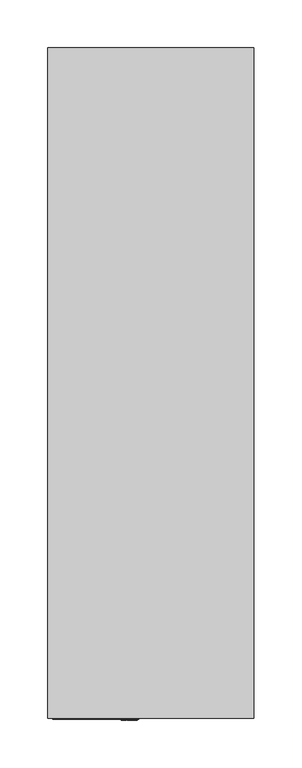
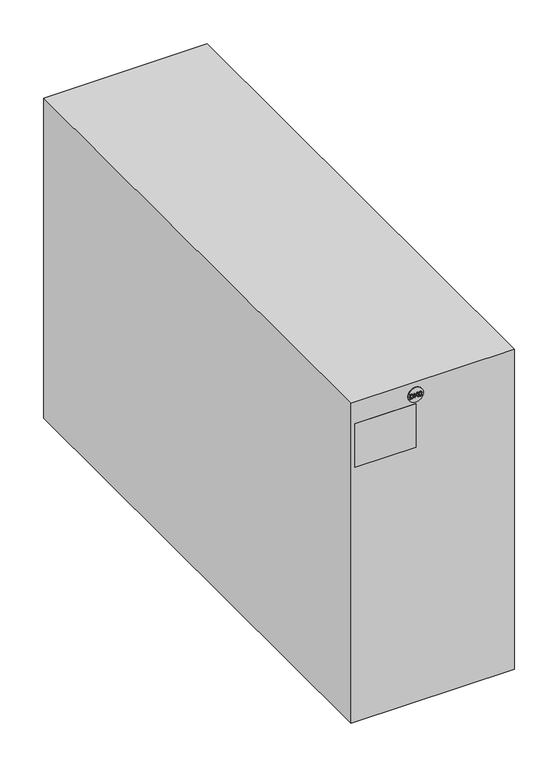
"""IFC4 building model written with IfcOpenShell, lengths in millimetres: proxy geometry, НВО_КНС_БатарейныйБлокSoloMD_DKC : BBC15P2A7."""

from ifc_helpers import new_model, si_unit, point, frame, frame_2d, origin, origin_with_axes, place, context, project, spatial, polyline, circle_curve, trimmed, segment, composite_curve, outline, extrude, source, transform, mapped, element, save


def electrical_equipment_1890145e(model_context):
    return source(origin(), model_context, "Body", "SweptSolid", [
        extrude(outline(polyline([(424.5, -30.6463789), (424.5, -28.467046), (424.603007, -27.4980448), (425.4520786, -26.2273804), (426.329845, -25.8153525), (427.5460629, -25.654956), (428.9793312, -25.891872), (430.0094008, -26.6055631), (430.4405585, -27.4914229), (430.5273786, -28.5671099), (430.5273786, -30.6463789), (424.5, -30.6463789)]), holes=[polyline([(425.2534223, -29.8929566), (429.7739563, -29.8929566), (429.7739563, -28.5803536), (429.653291, -27.5120243), (428.9852173, -26.7299072), (427.5578351, -26.4083783), (426.4181367, -26.5724537), (425.3623154, -27.5900153), (425.2534223, -28.5597522), (425.2534223, -29.8929566)])]), frame((0.0, -2.0, 0.0), z_axis=(0.0, 1.0, 0.0), x_axis=(0.0, 0.0, 1.0)), (0.0, 0.0, 1.0), 6.0),
        extrude(outline(polyline([(424.5, -24.2422891), (426.5719114, -23.865578), (427.5401768, -22.8502237), (424.5, -20.5487539), (424.5, -19.6275774), (428.0493255, -22.316059), (430.5273786, -19.7217552), (430.5273786, -20.7753692), (427.576965, -23.865578), (430.5273786, -24.6190003), (424.5, -24.2422891)])), frame((0.0, -2.0, 0.0), z_axis=(0.0, 1.0, 0.0), x_axis=(0.0, 0.0, 1.0)), (0.0, 0.0, 1.0), 6.0),
        extrude(outline(polyline([(426.6425447, -14.8245101), (425.5330126, -15.463889), (425.1592445, -16.6168311), (425.4336845, -17.6564657), (426.2628905, -18.3642706), (427.5607782, -18.5916217), (428.680611, -18.3995873), (429.5458694, -17.7337209), (429.8681341, -16.555027), (429.5775073, -15.5367296), (428.8307068, -14.1652655), (430.152139, -15.0165445), (430.6215564, -16.5255964), (430.2588248, -17.9735799), (429.1971173, -18.9881985), (427.5593067, -19.345044), (425.9479835, -19.0294013), (424.8016632, -18.1096963), (424.4058222, -16.5417832), (424.9289504, -14.9643052), (426.6425447, -14.8245101)])), frame((0.0, -2.0, 0.0), z_axis=(0.0, 1.0, 0.0), x_axis=(0.0, 0.0, 1.0)), (0.0, 0.0, 1.0), 6.0),
        extrude(outline(composite_curve([segment(trimmed(circle_curve(frame_2d((427.5, -22.5)), 10.0), [point((427.5, -32.5))], [point((427.5, -12.5))], False, "CARTESIAN"), True, "CONTINUOUS"), segment(trimmed(circle_curve(frame_2d((427.5, -22.5)), 10.0), [point((427.5, -12.5))], [point((427.5, -32.5))], False, "CARTESIAN"), True, "CONTINUOUS")], self_intersect=False)), frame((0.0, -1.0, 0.0), z_axis=(0.0, 1.0, 0.0), x_axis=(0.0, 0.0, 1.0)), (0.0, 0.0, 1.0), 10.0),
        extrude(outline(polyline([(107.5, 0.0), (-107.5, 0.0), (-107.5, 700.0), (107.5, 700.0), (107.5, 0.0)])), origin_with_axes(), (0.0, 0.0, 1.0), 445.0),
        extrude(outline(polyline([(-22.5, -1.0), (-102.5, -1.0), (-102.5, 0.0), (-22.5, 0.0), (-22.5, -1.0)])), frame((0.0, 0.0, 355.0), z_axis=(0.0, 0.0, 1.0), x_axis=(1.0, 0.0, 0.0)), (0.0, 0.0, 1.0), 60.0),
    ])


if __name__ == "__main__":
    model = new_model("IFC4")
    model_context = context("Model", 3, world=origin())
    ifc_project = project(units=[si_unit("LENGTHUNIT", "METRE", prefix="MILLI")], contexts=[model_context])
    site = spatial("IfcSite", under=ifc_project)
    building = spatial("IfcBuilding", under=site)
    placement = place(None, origin())
    electrical_equipment_shape = electrical_equipment_1890145e(model_context)
    element("IfcBuildingElementProxy", 1, Name="НВО_КНС_БатарейныйБлокSoloMD_DKC : BBC15P2A7", ObjectType="НВО_КНС_БатарейныйБлокSoloMD_DKC : BBC15P2A7", at=placement, inside=building, context=model_context, shape_type="MappedRepresentation", body=[
        mapped(electrical_equipment_shape, transform((0.0, 0.0, 0.0), x_axis=(1.0, 0.0, 0.0), y_axis=(0.0, 1.0, 0.0), z_axis=(0.0, 0.0, 1.0))),
    ])
    save(model, "model.ifc")
